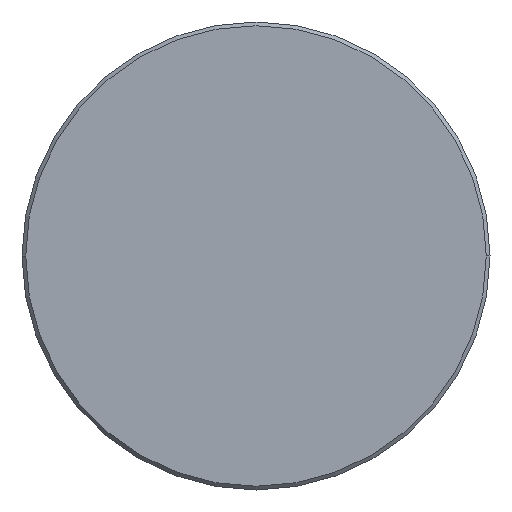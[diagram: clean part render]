
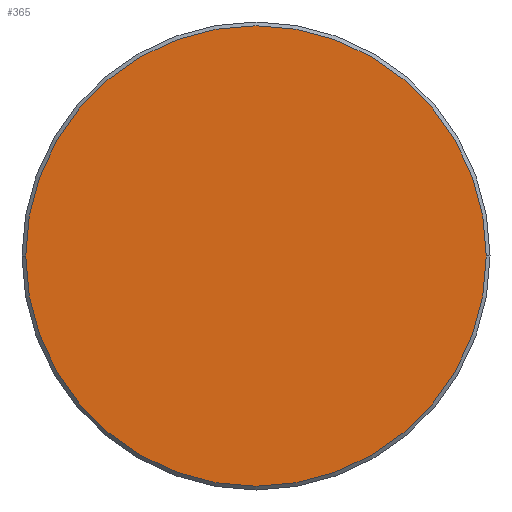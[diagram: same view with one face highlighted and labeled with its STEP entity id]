
A CAD part, left-side view. The second image highlights one B-rep face of the part: STEP entity #365.
In plain terms, the highlighted planar face has unit normal (-1, 0, 0).
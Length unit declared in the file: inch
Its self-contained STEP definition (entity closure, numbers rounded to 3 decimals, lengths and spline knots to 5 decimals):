
#14 = ORIENTED_EDGE ( 'NONE', *, *, #313, .T. ) ;
#54 = CARTESIAN_POINT ( 'NONE',  ( 0., 0.246, 0. ) ) ;
#63 = PLANE ( 'NONE',  #154 ) ;
#82 = CARTESIAN_POINT ( 'NONE',  ( 0., 0., 0. ) ) ;
#84 = DIRECTION ( 'NONE',  ( -1., 0., 0. ) ) ;
#90 = CARTESIAN_POINT ( 'NONE',  ( 0., 0., 0. ) ) ;
#95 = DIRECTION ( 'NONE',  ( -1., 0., 0. ) ) ;
#106 = VERTEX_POINT ( 'NONE', #54 ) ;
#110 = DIRECTION ( 'NONE',  ( 0., -1., 0. ) ) ;
#112 = CIRCLE ( 'NONE', #285, 0.246 ) ;
#125 = CARTESIAN_POINT ( 'NONE',  ( 0., 0., 0. ) ) ;
#154 = AXIS2_PLACEMENT_3D ( 'NONE', #125, #211, #299 ) ;
#170 = ORIENTED_EDGE ( 'NONE', *, *, #178, .T. ) ;
#178 = EDGE_CURVE ( 'NONE', #348, #106, #265, .T. ) ;
#185 = CARTESIAN_POINT ( 'NONE',  ( 0., -0.246, 0. ) ) ;
#211 = DIRECTION ( 'NONE',  ( -1., 0., 0. ) ) ;
#265 = CIRCLE ( 'NONE', #268, 0.246 ) ;
#268 = AXIS2_PLACEMENT_3D ( 'NONE', #82, #84, #110 ) ;
#285 = AXIS2_PLACEMENT_3D ( 'NONE', #90, #95, #293 ) ;
#293 = DIRECTION ( 'NONE',  ( 0., -1., 0. ) ) ;
#295 = EDGE_LOOP ( 'NONE', ( #14, #170 ) ) ;
#299 = DIRECTION ( 'NONE',  ( 0., -1., 0. ) ) ;
#313 = EDGE_CURVE ( 'NONE', #106, #348, #112, .T. ) ;
#348 = VERTEX_POINT ( 'NONE', #185 ) ;
#365 = ADVANCED_FACE ( 'NONE', ( #367 ), #63, .T. ) ;
#367 = FACE_OUTER_BOUND ( 'NONE', #295, .T. ) ;
